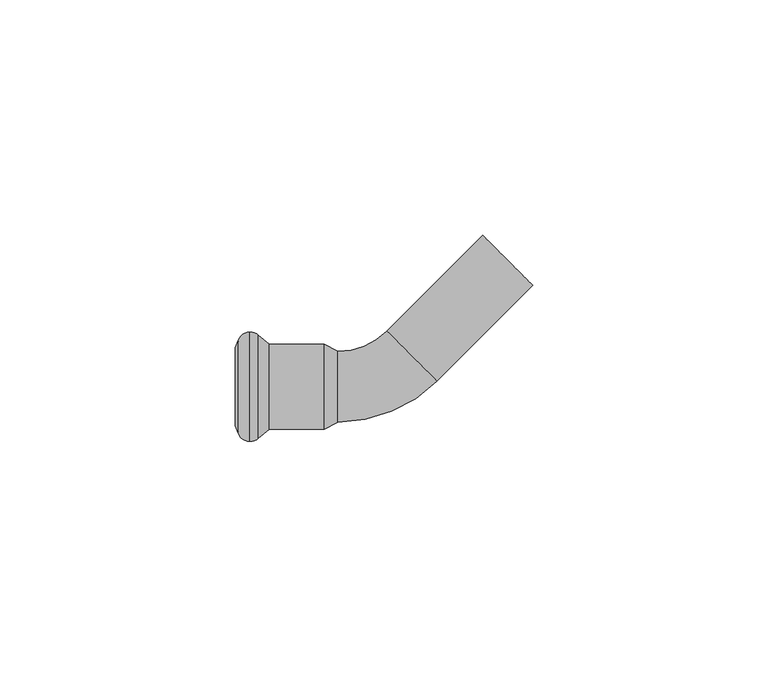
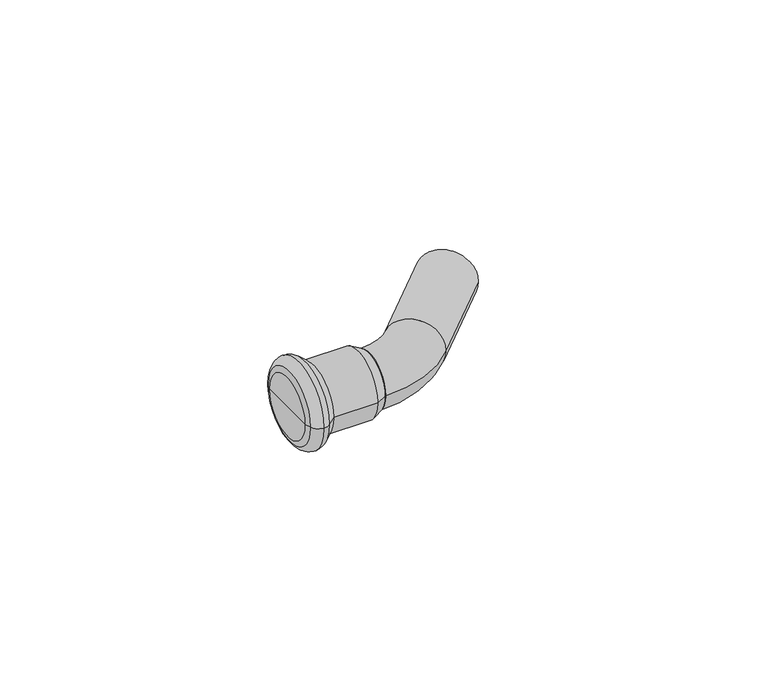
"""IFC4 building model written with IfcOpenShell, lengths in millimetres: pipe fitting geometry, KAN-therm Steel kolano nyplowe 45 : KAN-therm Steel kolano nyplowe 45."""

from ifc_helpers import new_model, si_unit, point, frame, origin, place, context, project, spatial, polyline, circle_curve, ellipse_curve, trimmed, source, transform, mapped, element, save
from ifc_brep_helpers import plane_surface, cylinder_surface, revolved_surface, advanced_brep


def pipe_fitting_2555e7f1(model_context):
    return source(origin(), model_context, "Body", "AdvancedBrep", [
        advanced_brep(
        [(32.1733585, 21.5667568, 0.0), (21.5667568, 32.1733585, 0.0), (-9.2, -7.5, 0.0), (-9.2, 7.5, 0.0), (1.2020815, 11.8086832, 0.0), (11.8086832, 1.2020815, 0.0)],
        [
            (0, 1, circle_curve(frame((26.8700577, 26.8700577, 0.0), z_axis=(0.7071067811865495, 0.7071067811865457, 0.0), x_axis=(-0.7071067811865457, 0.7071067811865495, 0.0)), 7.5)),
            (1, 0, circle_curve(frame((26.8700577, 26.8700577, 0.0), z_axis=(0.7071067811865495, 0.7071067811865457, 0.0), x_axis=(-0.7071067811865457, 0.7071067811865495, 0.0)), 7.5)),
            (2, 3, circle_curve(frame((-9.2, 0.0, 0.0), z_axis=(-1.0, 0.0, 0.0), x_axis=(0.0, 1.0, 0.0)), 7.5)),
            (3, 2, circle_curve(frame((-9.2, 0.0, 0.0), z_axis=(-1.0, 0.0, 0.0), x_axis=(0.0, 1.0, 0.0)), 7.5)),
            (4, 3, circle_curve(frame((-9.2, 22.2107648, 0.0), z_axis=(0.0, 0.0, -1.0), x_axis=(0.0, -1.0, 0.0)), 14.7107648)),
            (2, 5, circle_curve(frame((-9.2, 22.2107648, 0.0), z_axis=(0.0, 0.0, 1.0), x_axis=(0.0, -1.0, 0.0)), 29.7107648)),
            (5, 4, circle_curve(frame((6.5053824, 6.5053824, 0.0), z_axis=(-0.7071067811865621, -0.707106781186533, 0.0), x_axis=(-0.707106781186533, 0.7071067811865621, 0.0)), 7.5)),
            (4, 5, circle_curve(frame((6.5053824, 6.5053824, 0.0), z_axis=(-0.7071067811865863, -0.7071067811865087, 0.0), x_axis=(-0.7071067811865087, 0.7071067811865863, 0.0)), 7.5)),
            (5, 0),
            (1, 4),
        ],
        [
            plane_surface(frame((26.8700577, 26.8700577, 0.0), z_axis=(0.7071067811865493, 0.7071067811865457, 0.0), x_axis=(0.0, 0.0, 1.0))),
            plane_surface(frame((-9.2, 0.0, 0.0), z_axis=(-1.0, 0.0, 0.0), x_axis=(0.0, 0.0, 1.0))),
            revolved_surface(trimmed(ellipse_curve(frame((-9.2, 0.0, 0.0), z_axis=(-1.0, 0.0, 0.0), x_axis=(0.0, 1.0, 0.0)), 7.5, 7.5), [point((-9.2, -7.5, 0.0))], [point((-9.2, 7.5, 0.0))], True, "CARTESIAN"), (-9.2, 22.2107648, 0.0), (0.0, 0.0, 1.0)),
            revolved_surface(trimmed(ellipse_curve(frame((-9.2, 0.0, 0.0), z_axis=(-1.0, 0.0, 0.0), x_axis=(0.0, 1.0, 0.0)), 7.5, 7.5), [point((-9.2, 7.5, 0.0))], [point((-9.2, -7.5, 0.0))], True, "CARTESIAN"), (-9.2, 22.2107648, 0.0), (0.0, 0.0, 1.0)),
            cylinder_surface(frame((6.5053824, 6.5053824, 0.0), z_axis=(-0.7071067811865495, -0.7071067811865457, 0.0), x_axis=(-0.7071067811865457, 0.7071067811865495, 0.0)), 7.5),
        ],
        [
            (0, [[1, 2]]),
            (1, [[3, 4]]),
            (2, [[5, -3, 6, 7]]),
            (3, [[-6, -4, -5, 8]]),
            (4, [[-7, 9, -2, 10]]),
            (4, [[-8, -10, -1, -9]]),
        ],
    ),
        advanced_brep(
        [(-12.1180407, -9.0, 0.0), (-12.1180407, 9.0, 0.0), (-9.2, 7.5, 0.0), (-9.2, -7.5, 0.0), (-23.7838092, -9.0, 0.0), (-23.7838092, 9.0, 0.0), (-26.0922627, -10.9370225, 0.0), (-26.0922627, 10.9370225, 0.0), (-27.8921278, -11.625, 0.0), (-27.8921278, 11.625, 0.0), (-30.432052, -9.8484544, 0.0), (-30.432052, 9.8484544, 0.0), (-31.0, -8.2880302, 0.0), (-31.0, 8.2880302, 0.0), (-31.0, 0.0, 0.0), (-9.2, 0.0, 0.0)],
        [
            (0, 1, circle_curve(frame((-12.1180407, 0.0, 0.0), z_axis=(1.0, 0.0, 0.0), x_axis=(0.0, 1.0, 0.0)), 9.0)),
            (1, 2),
            (2, 3, circle_curve(frame((-9.2, 0.0, 0.0), z_axis=(-1.0, 0.0, 0.0), x_axis=(0.0, 1.0, 0.0)), 7.5)),
            (3, 0),
            (1, 0, circle_curve(frame((-12.1180407, 0.0, 0.0), z_axis=(1.0, 0.0, 0.0), x_axis=(0.0, 1.0, 0.0)), 9.0)),
            (3, 2, circle_curve(frame((-9.2, 0.0, 0.0), z_axis=(-1.0, 0.0, 0.0), x_axis=(0.0, 1.0, 0.0)), 7.5)),
            (4, 5, circle_curve(frame((-23.7838092, 0.0, 0.0), z_axis=(1.0, 0.0, 0.0), x_axis=(0.0, 1.0, 0.0)), 9.0)),
            (5, 1),
            (0, 4),
            (5, 4, circle_curve(frame((-23.7838092, 0.0, 0.0), z_axis=(1.0, 0.0, 0.0), x_axis=(0.0, 1.0, 0.0)), 9.0)),
            (6, 7, circle_curve(frame((-26.0922627, 0.0, 0.0), z_axis=(1.0, 0.0, 0.0), x_axis=(0.0, 1.0, 0.0)), 10.9370225)),
            (7, 5),
            (4, 6),
            (7, 6, circle_curve(frame((-26.0922627, 0.0, 0.0), z_axis=(1.0, 0.0, 0.0), x_axis=(0.0, 1.0, 0.0)), 10.9370225)),
            (8, 9, circle_curve(frame((-27.8921278, 0.0, 0.0), z_axis=(1.0, 0.0, 0.0), x_axis=(0.0, 1.0, 0.0)), 11.625)),
            (9, 7, circle_curve(frame((-27.8935049, 8.9230333, 0.0), z_axis=(0.0, 0.0, -1.0), x_axis=(1.0, 0.0, 0.0)), 2.701967)),
            (6, 8, circle_curve(frame((-27.8935049, -8.9230333, 0.0), z_axis=(0.0, 0.0, -1.0), x_axis=(1.0, 0.0, 0.0)), 2.701967)),
            (9, 8, circle_curve(frame((-27.8921278, 0.0, 0.0), z_axis=(1.0, 0.0, 0.0), x_axis=(0.0, 1.0, 0.0)), 11.625)),
            (10, 11, circle_curve(frame((-30.432052, 0.0, 0.0), z_axis=(1.0, 0.0, 0.0), x_axis=(0.0, 1.0, 0.0)), 9.8484544)),
            (11, 9, circle_curve(frame((-27.89488, 8.9249993, 0.0), z_axis=(0.0, 0.0, -1.0), x_axis=(1.0, 0.0, 0.0)), 2.7000021)),
            (8, 10, circle_curve(frame((-27.89488, -8.9249993, 0.0), z_axis=(0.0, 0.0, -1.0), x_axis=(1.0, 0.0, 0.0)), 2.7000021)),
            (11, 10, circle_curve(frame((-30.432052, 0.0, 0.0), z_axis=(1.0, 0.0, 0.0), x_axis=(0.0, 1.0, 0.0)), 9.8484544)),
            (12, 13, circle_curve(frame((-31.0, 0.0, 0.0), z_axis=(1.0, 0.0, 0.0), x_axis=(0.0, 1.0, 0.0)), 8.2880302)),
            (13, 11),
            (10, 12),
            (13, 12, circle_curve(frame((-31.0, 0.0, 0.0), z_axis=(1.0, 0.0, 0.0), x_axis=(0.0, 1.0, 0.0)), 8.2880302)),
            (14, 13),
            (12, 14),
            (2, 15),
            (15, 3),
        ],
        [
            revolved_surface(polyline([(-9.2, 7.5, 0.0), (-12.1180407, 9.0, 0.0)]), (1925.8954546, 0.0, 0.0), (-1.0, 0.0, 0.0)),
            cylinder_surface(frame((1925.8954546, 0.0, 0.0), z_axis=(-1.0, 0.0, 0.0), x_axis=(0.0, 1.0, 0.0)), 9.0),
            revolved_surface(polyline([(-23.7838092, 9.0, 0.0), (-26.0922627, 10.9370225, 0.0)]), (1925.8954546, 0.0, 0.0), (-1.0, 0.0, 0.0)),
            revolved_surface(trimmed(ellipse_curve(frame((-27.8935049, 8.9230333, 0.0), z_axis=(0.0, 0.0, 1.0), x_axis=(1.0, 0.0, 0.0)), 2.701967, 2.701967), [point((-26.0922627, 10.9370225, 0.0))], [point((-27.8921278, 11.625, 0.0))], True, "CARTESIAN"), (1925.8954546, 0.0, 0.0), (-1.0, 0.0, 0.0)),
            revolved_surface(trimmed(ellipse_curve(frame((-27.89488, 8.9249993, 0.0), z_axis=(0.0, 0.0, 1.0), x_axis=(1.0, 0.0, 0.0)), 2.7000021, 2.7000021), [point((-27.8921278, 11.625, 0.0))], [point((-30.432052, 9.8484544, 0.0))], True, "CARTESIAN"), (1925.8954546, 0.0, 0.0), (-1.0, 0.0, 0.0)),
            revolved_surface(polyline([(-30.432052, 9.8484544, 0.0), (-31.0, 8.2880302, 0.0)]), (1925.8954546, 0.0, 0.0), (-1.0, 0.0, 0.0)),
            plane_surface(frame((-31.0, 0.0, 0.0), z_axis=(-1.0, 0.0, 0.0), x_axis=(0.0, 1.0, 0.0))),
            plane_surface(frame((-9.2, 0.0, 0.0), z_axis=(1.0, 0.0, 0.0), x_axis=(0.0, 1.0, 0.0))),
        ],
        [
            (0, [[1, 2, 3, 4]]),
            (0, [[5, -4, 6, -2]]),
            (1, [[7, 8, -1, 9]]),
            (1, [[10, -9, -5, -8]]),
            (2, [[11, 12, -7, 13]]),
            (2, [[14, -13, -10, -12]]),
            (3, [[15, 16, -11, 17]]),
            (3, [[18, -17, -14, -16]]),
            (4, [[19, 20, -15, 21]]),
            (4, [[22, -21, -18, -20]]),
            (5, [[23, 24, -19, 25]]),
            (5, [[26, -25, -22, -24]]),
            (6, [[27, -23, 28]]),
            (6, [[-28, -26, -27]]),
            (7, [[-3, 29, 30]]),
            (7, [[-6, -30, -29]]),
        ],
    ),
    ])


if __name__ == "__main__":
    model = new_model("IFC4")
    model_context = context("Model", 3, world=origin())
    ifc_project = project(units=[si_unit("LENGTHUNIT", "METRE", prefix="MILLI")], contexts=[model_context])
    site = spatial("IfcSite", under=ifc_project)
    building = spatial("IfcBuilding", under=site)
    placement = place(None, origin())
    pipe_fitting_shape = pipe_fitting_2555e7f1(model_context)
    element("IfcPipeFitting", 1, ObjectType="KAN-therm Steel kolano nyplowe 45 : KAN-therm Steel kolano nyplowe 45", at=placement, inside=building, context=model_context, shape_type="MappedRepresentation", body=[
        mapped(pipe_fitting_shape, transform((0.0, 0.0, 0.0), x_axis=(1.0, 0.0, 0.0), y_axis=(0.0, 1.0, 0.0), z_axis=(0.0, 0.0, 1.0))),
    ])
    save(model, "model.ifc")
